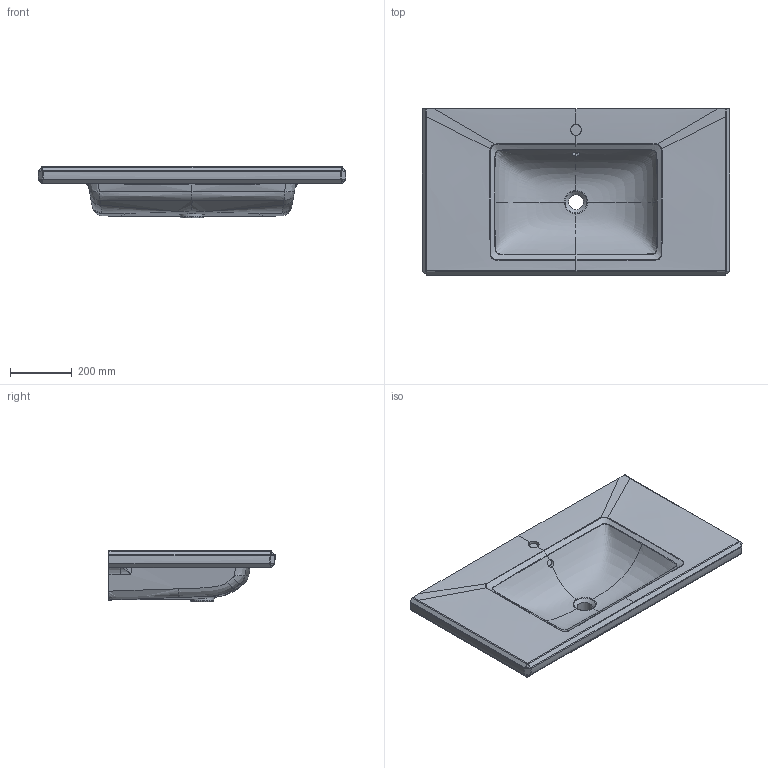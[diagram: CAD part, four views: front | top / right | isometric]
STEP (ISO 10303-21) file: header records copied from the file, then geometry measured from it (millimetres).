
FILE_DESCRIPTION(/* description */ (''),/* implementation_level */ '2;1');
FILE_NAME(/* name */ '4A09A5_Antheus_SWT_100.stp',/* time_stamp */ '2018-11-23T07:39:42+01:00',/* author */ (''),/* organization */ (''),/* preprocessor_version */ 'ST-DEVELOPER v16',/* originating_system */ 'SIEMENS PLM Software NX 10.0',/* authorisation */ '');
FILE_SCHEMA (('AUTOMOTIVE_DESIGN { 1 0 10303 214 3 1 1 1 }'));
Products named in the file (1): Sier1974F9F1mtsl
Bounding box: 1000 x 539.98 x 167.65 mm (x, y, z)
Volume: 39800604.6 mm3; surface area: 1477185.7 mm2
Topology: 1 solids, 1 shells, 200 faces, 494 edges, 270 vertices
Faces by surface type: bspline 117, cylinder 31, sphere 24, plane 18, extrusion 7, cone 2, torus 1
Full cylindrical faces by diameter (mm): 48.552 x1
Entity records: 64378 total; most frequent: CARTESIAN_POINT 60736, ORIENTED_EDGE 924, DIRECTION 499, EDGE_CURVE 462, VERTEX_POINT 268, B_SPLINE_CURVE_WITH_KNOTS 231, AXIS2_PLACEMENT_3D 210, EDGE_LOOP 206
